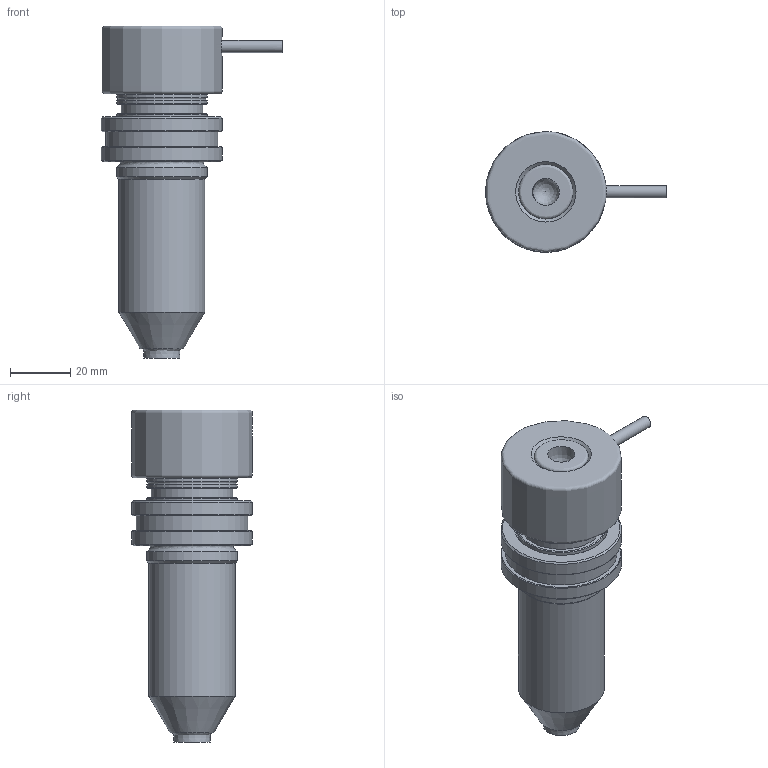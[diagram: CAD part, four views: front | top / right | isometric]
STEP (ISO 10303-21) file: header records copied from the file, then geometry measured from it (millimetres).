
FILE_DESCRIPTION(('STEP AP214'),'1');
FILE_NAME('IPM300-C.stp','2018-06-12T15:14:54',(' '),(' '),'Spatial InterOp 3D',' ',' ');
FILE_SCHEMA(('AUTOMOTIVE_DESIGN { 1 0 10303 214 1 1 1 1 }'));
Length unit declared in the file: millimetre
Products named in the file (1): 1
Bounding box: 60 x 40 x 110 mm (x, y, z)
Volume: 73211.2 mm3; surface area: 30901 mm2
Topology: 4 solids, 4 shells, 81 faces, 149 edges, 87 vertices
Faces by surface type: cone 24, cylinder 23, plane 20, revolution 11, torus 2, bspline 1
Full cylindrical faces by diameter (mm): 3 x1, 4 x1, 4.55 x1, 6 x1, 6.6 x1, 7 x1, 7.01 x1, 10.7 x1, 10.72 x1, 22 x2, 27 x1, 28.5 x1, 29.4 x1, 30 x6, 37 x1, 40 x2
Entity records: 2765 total; most frequent: CARTESIAN_POINT 717, DIRECTION 309, ORIENTED_EDGE 164, EDGE_LOOP 160, AXIS2_PLACEMENT_3D 149, FACE_OUTER_BOUND 116, VERTEX_POINT 84, EDGE_CURVE 82
